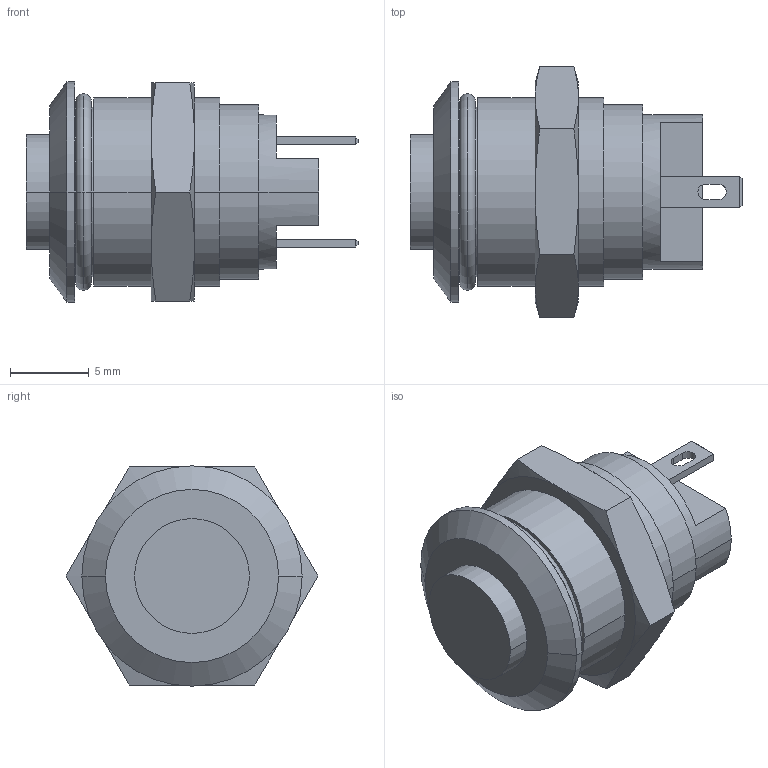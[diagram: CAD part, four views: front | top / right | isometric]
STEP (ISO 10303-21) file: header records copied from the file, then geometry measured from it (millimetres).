
FILE_DESCRIPTION(('STEP AP214'),'1');
FILE_NAME('MAV0120-3D.stp','2018-02-13T14:52:00',('TraceParts'),('TraceParts S.A.'),'Spatial InterOp 3D',' ',' ');
FILE_SCHEMA(('automotive_design'));
Length unit declared in the file: millimetre
Products named in the file (1): MAV0120-3D
Bounding box: 21.1 x 16 x 14 mm (x, y, z)
Volume: 1902.3 mm3; surface area: 1199.4 mm2
Topology: 1 solids, 1 shells, 81 faces, 182 edges, 112 vertices
Faces by surface type: plane 42, cylinder 21, cone 14, torus 4
Entity records: 2381 total; most frequent: CARTESIAN_POINT 544, DIRECTION 388, ORIENTED_EDGE 364, EDGE_CURVE 182, AXIS2_PLACEMENT_3D 148, VERTEX_POINT 112, EDGE_LOOP 94, LINE 92
